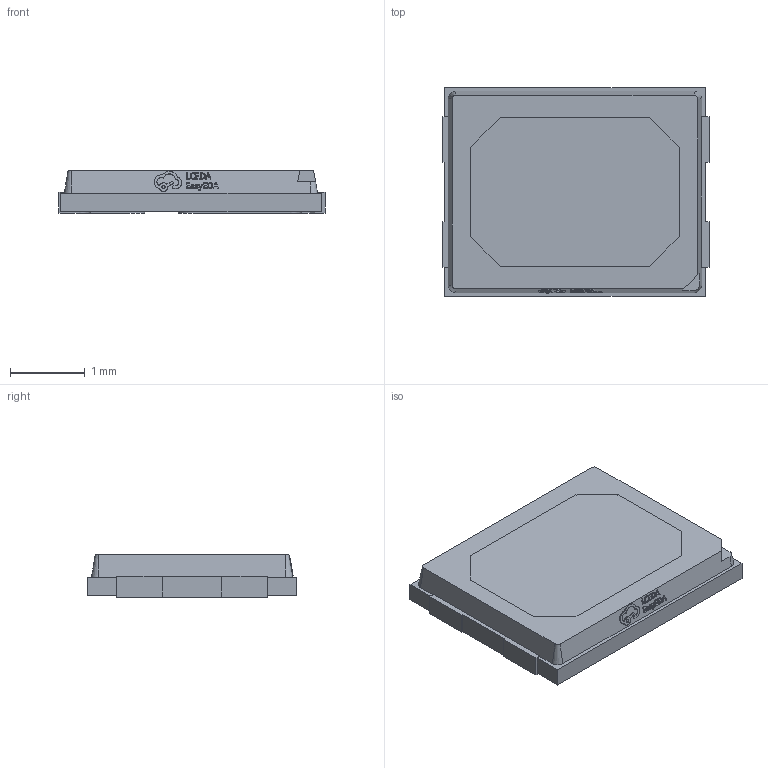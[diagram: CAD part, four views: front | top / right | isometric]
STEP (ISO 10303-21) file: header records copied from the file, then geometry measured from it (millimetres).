
FILE_DESCRIPTION (( 'STEP AP214' ), '1' );
FILE_NAME ('LED-SMD_L3.5-W2.8-FD_WHITE-1.step', '2022-07-08T12:50:49', ( '' ), ( '' ), 'SwSTEP 2.0', 'SolidWorks 2020', '' );
FILE_SCHEMA (( 'AUTOMOTIVE_DESIGN' ));
Length unit declared in the file: millimetre
Products named in the file (1): LED-SMD_L3.5-W2.8-FD_WHITE-1
Bounding box: 3.57 x 2.8 x 0.57 mm (x, y, z)
Volume: 5.3 mm3; surface area: 38.9 mm2
Topology: 2 solids, 2 shells, 366 faces, 1005 edges, 670 vertices
Faces by surface type: plane 242, bspline 112, cylinder 8, cone 4
Entity records: 16774 total; most frequent: CARTESIAN_POINT 4146, ORIENTED_EDGE 2010, DIRECTION 1311, EDGE_CURVE 1005, LINE 753, VECTOR 753, VERTEX_POINT 670, EDGE_LOOP 393
